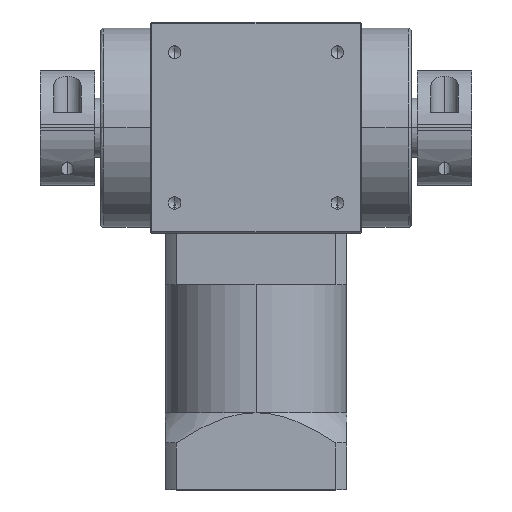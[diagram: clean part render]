
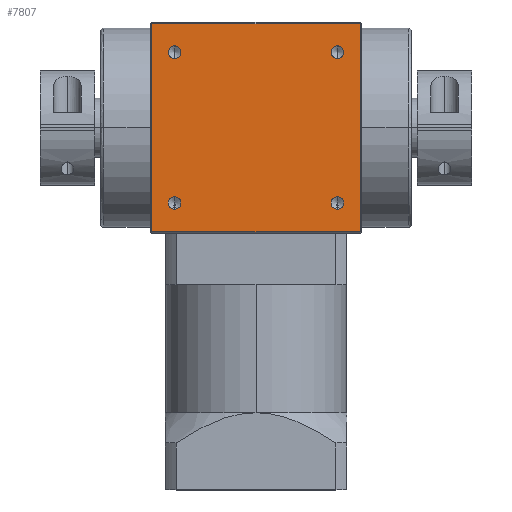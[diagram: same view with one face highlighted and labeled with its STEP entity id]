
A CAD part, top view. The second image highlights one B-rep face of the part: STEP entity #7807.
In plain terms, the highlighted planar face has unit normal (0, 0, 1).
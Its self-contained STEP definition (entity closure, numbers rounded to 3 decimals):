
#23 = EDGE_CURVE ( 'NONE', #3695, #563, #4400, .T. ) ;
#36 = DIRECTION ( 'NONE',  ( 0., 0., 1. ) ) ;
#302 = DIRECTION ( 'NONE',  ( 0., 0., 1. ) ) ;
#410 = CARTESIAN_POINT ( 'NONE',  ( 27., 27.1, 35. ) ) ;
#442 = EDGE_LOOP ( 'NONE', ( #7826, #4736 ) ) ;
#563 = VERTEX_POINT ( 'NONE', #6573 ) ;
#890 = EDGE_CURVE ( 'NONE', #5112, #3818, #3538, .T. ) ;
#980 = CIRCLE ( 'NONE', #3939, 2.1 ) ;
#1500 = CARTESIAN_POINT ( 'NONE',  ( -34.5, 0., 35. ) ) ;
#1539 = ORIENTED_EDGE ( 'NONE', *, *, #4639, .F. ) ;
#1545 = DIRECTION ( 'NONE',  ( 0., 0., -1. ) ) ;
#1579 = ORIENTED_EDGE ( 'NONE', *, *, #4343, .F. ) ;
#1624 = VERTEX_POINT ( 'NONE', #410 ) ;
#1647 = EDGE_CURVE ( 'NONE', #9483, #2146, #6407, .T. ) ;
#1721 = AXIS2_PLACEMENT_3D ( 'NONE', #10893, #3081, #10012 ) ;
#1872 = DIRECTION ( 'NONE',  ( 0., 1., 0. ) ) ;
#1919 = CARTESIAN_POINT ( 'NONE',  ( 34.5, 0., 35. ) ) ;
#2052 = EDGE_CURVE ( 'NONE', #2146, #9483, #8664, .T. ) ;
#2081 = DIRECTION ( 'NONE',  ( 0., 0., 1. ) ) ;
#2146 = VERTEX_POINT ( 'NONE', #6958 ) ;
#2219 = DIRECTION ( 'NONE',  ( 0., -1., 0. ) ) ;
#2275 = ORIENTED_EDGE ( 'NONE', *, *, #2052, .F. ) ;
#2399 = FACE_OUTER_BOUND ( 'NONE', #4091, .T. ) ;
#2599 = CARTESIAN_POINT ( 'NONE',  ( 27., 22.9, 35. ) ) ;
#2606 = EDGE_CURVE ( 'NONE', #2804, #7773, #3747, .T. ) ;
#2715 = VECTOR ( 'NONE', #4730, 1000. ) ;
#2804 = VERTEX_POINT ( 'NONE', #10814 ) ;
#2892 = DIRECTION ( 'NONE',  ( 0., 0., 1. ) ) ;
#2926 = DIRECTION ( 'NONE',  ( 0., 0., 1. ) ) ;
#3079 = ORIENTED_EDGE ( 'NONE', *, *, #5348, .F. ) ;
#3081 = DIRECTION ( 'NONE',  ( 0., 0., 1. ) ) ;
#3125 = CARTESIAN_POINT ( 'NONE',  ( -27., -27.1, 35. ) ) ;
#3294 = AXIS2_PLACEMENT_3D ( 'NONE', #9233, #9184, #9084 ) ;
#3295 = CARTESIAN_POINT ( 'NONE',  ( -27., 22.9, 35. ) ) ;
#3479 = VECTOR ( 'NONE', #2219, 1000. ) ;
#3538 = LINE ( 'NONE', #1500, #7774 ) ;
#3695 = VERTEX_POINT ( 'NONE', #3295 ) ;
#3732 = CARTESIAN_POINT ( 'NONE',  ( 27., -25., 35. ) ) ;
#3747 = LINE ( 'NONE', #1919, #3479 ) ;
#3818 = VERTEX_POINT ( 'NONE', #9997 ) ;
#3939 = AXIS2_PLACEMENT_3D ( 'NONE', #3732, #9647, #4568 ) ;
#3943 = AXIS2_PLACEMENT_3D ( 'NONE', #8087, #2926, #8073 ) ;
#3957 = AXIS2_PLACEMENT_3D ( 'NONE', #7930, #2892, #8780 ) ;
#4091 = EDGE_LOOP ( 'NONE', ( #8217, #10196, #1579, #10437 ) ) ;
#4193 = CARTESIAN_POINT ( 'NONE',  ( 0., 34.5, 35. ) ) ;
#4343 = EDGE_CURVE ( 'NONE', #3818, #2804, #9188, .T. ) ;
#4400 = CIRCLE ( 'NONE', #7702, 2.1 ) ;
#4483 = CIRCLE ( 'NONE', #1721, 2.1 ) ;
#4496 = VERTEX_POINT ( 'NONE', #7293 ) ;
#4566 = DIRECTION ( 'NONE',  ( 0., -1., 0. ) ) ;
#4568 = DIRECTION ( 'NONE',  ( 0., -1., 0. ) ) ;
#4594 = CARTESIAN_POINT ( 'NONE',  ( -27., -25., 35. ) ) ;
#4627 = FACE_BOUND ( 'NONE', #8707, .T. ) ;
#4639 = EDGE_CURVE ( 'NONE', #8211, #4496, #5318, .T. ) ;
#4730 = DIRECTION ( 'NONE',  ( 1., 0., 0. ) ) ;
#4736 = ORIENTED_EDGE ( 'NONE', *, *, #7606, .F. ) ;
#5038 = ORIENTED_EDGE ( 'NONE', *, *, #8187, .F. ) ;
#5112 = VERTEX_POINT ( 'NONE', #6125 ) ;
#5297 = CARTESIAN_POINT ( 'NONE',  ( 27., 25., 35. ) ) ;
#5318 = CIRCLE ( 'NONE', #3294, 2.1 ) ;
#5348 = EDGE_CURVE ( 'NONE', #1624, #8016, #4483, .T. ) ;
#5369 = EDGE_CURVE ( 'NONE', #5112, #7773, #5409, .T. ) ;
#5409 = LINE ( 'NONE', #7603, #9918 ) ;
#6125 = CARTESIAN_POINT ( 'NONE',  ( -34.5, -34.5, 35. ) ) ;
#6164 = DIRECTION ( 'NONE',  ( 0., -1., 0. ) ) ;
#6407 = CIRCLE ( 'NONE', #10245, 2.1 ) ;
#6482 = PLANE ( 'NONE',  #9101 ) ;
#6545 = EDGE_CURVE ( 'NONE', #8016, #1624, #10264, .T. ) ;
#6553 = CARTESIAN_POINT ( 'NONE',  ( 0., 0., 35. ) ) ;
#6573 = CARTESIAN_POINT ( 'NONE',  ( -27., 27.1, 35. ) ) ;
#6750 = AXIS2_PLACEMENT_3D ( 'NONE', #5297, #302, #6164 ) ;
#6863 = FACE_BOUND ( 'NONE', #8322, .T. ) ;
#6958 = CARTESIAN_POINT ( 'NONE',  ( -27., -22.9, 35. ) ) ;
#7135 = FACE_BOUND ( 'NONE', #8845, .T. ) ;
#7293 = CARTESIAN_POINT ( 'NONE',  ( 27., -27.1, 35. ) ) ;
#7398 = DIRECTION ( 'NONE',  ( -1., 0., 0. ) ) ;
#7603 = CARTESIAN_POINT ( 'NONE',  ( 0., -34.5, 35. ) ) ;
#7606 = EDGE_CURVE ( 'NONE', #563, #3695, #10476, .T. ) ;
#7702 = AXIS2_PLACEMENT_3D ( 'NONE', #8576, #36, #10504 ) ;
#7773 = VERTEX_POINT ( 'NONE', #9040 ) ;
#7774 = VECTOR ( 'NONE', #1872, 1000. ) ;
#7807 = ADVANCED_FACE ( 'NONE', ( #4627, #6863, #7135, #9143, #2399 ), #6482, .F. ) ;
#7826 = ORIENTED_EDGE ( 'NONE', *, *, #23, .F. ) ;
#7930 = CARTESIAN_POINT ( 'NONE',  ( -27., 25., 35. ) ) ;
#8016 = VERTEX_POINT ( 'NONE', #2599 ) ;
#8073 = DIRECTION ( 'NONE',  ( 0., -1., 0. ) ) ;
#8087 = CARTESIAN_POINT ( 'NONE',  ( -27., -25., 35. ) ) ;
#8187 = EDGE_CURVE ( 'NONE', #4496, #8211, #980, .T. ) ;
#8211 = VERTEX_POINT ( 'NONE', #8781 ) ;
#8217 = ORIENTED_EDGE ( 'NONE', *, *, #5369, .T. ) ;
#8322 = EDGE_LOOP ( 'NONE', ( #8438, #2275 ) ) ;
#8438 = ORIENTED_EDGE ( 'NONE', *, *, #1647, .F. ) ;
#8576 = CARTESIAN_POINT ( 'NONE',  ( -27., 25., 35. ) ) ;
#8664 = CIRCLE ( 'NONE', #3943, 2.1 ) ;
#8707 = EDGE_LOOP ( 'NONE', ( #5038, #1539 ) ) ;
#8780 = DIRECTION ( 'NONE',  ( 0., -1., 0. ) ) ;
#8781 = CARTESIAN_POINT ( 'NONE',  ( 27., -22.9, 35. ) ) ;
#8845 = EDGE_LOOP ( 'NONE', ( #10215, #3079 ) ) ;
#9040 = CARTESIAN_POINT ( 'NONE',  ( 34.5, -34.5, 35. ) ) ;
#9084 = DIRECTION ( 'NONE',  ( 0., -1., 0. ) ) ;
#9101 = AXIS2_PLACEMENT_3D ( 'NONE', #6553, #1545, #7398 ) ;
#9143 = FACE_BOUND ( 'NONE', #442, .T. ) ;
#9184 = DIRECTION ( 'NONE',  ( 0., 0., 1. ) ) ;
#9188 = LINE ( 'NONE', #4193, #2715 ) ;
#9233 = CARTESIAN_POINT ( 'NONE',  ( 27., -25., 35. ) ) ;
#9483 = VERTEX_POINT ( 'NONE', #3125 ) ;
#9647 = DIRECTION ( 'NONE',  ( 0., 0., 1. ) ) ;
#9918 = VECTOR ( 'NONE', #10603, 1000. ) ;
#9997 = CARTESIAN_POINT ( 'NONE',  ( -34.5, 34.5, 35. ) ) ;
#10012 = DIRECTION ( 'NONE',  ( 0., -1., 0. ) ) ;
#10196 = ORIENTED_EDGE ( 'NONE', *, *, #2606, .F. ) ;
#10215 = ORIENTED_EDGE ( 'NONE', *, *, #6545, .F. ) ;
#10245 = AXIS2_PLACEMENT_3D ( 'NONE', #4594, #2081, #4566 ) ;
#10264 = CIRCLE ( 'NONE', #6750, 2.1 ) ;
#10437 = ORIENTED_EDGE ( 'NONE', *, *, #890, .F. ) ;
#10476 = CIRCLE ( 'NONE', #3957, 2.1 ) ;
#10504 = DIRECTION ( 'NONE',  ( 0., -1., 0. ) ) ;
#10603 = DIRECTION ( 'NONE',  ( 1., 0., 0. ) ) ;
#10814 = CARTESIAN_POINT ( 'NONE',  ( 34.5, 34.5, 35. ) ) ;
#10893 = CARTESIAN_POINT ( 'NONE',  ( 27., 25., 35. ) ) ;
